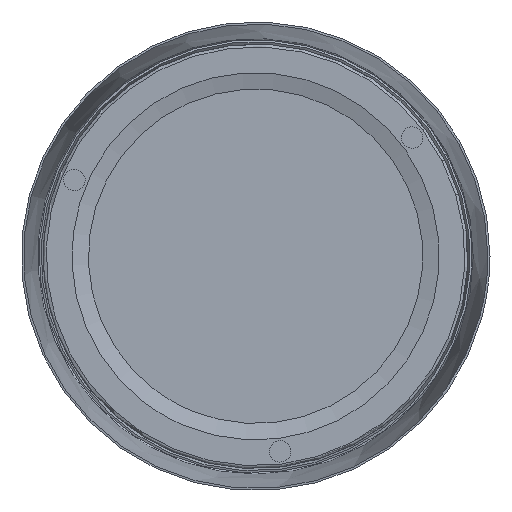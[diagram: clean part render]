
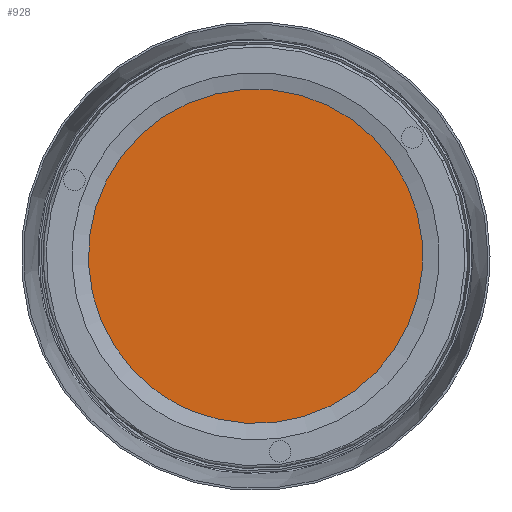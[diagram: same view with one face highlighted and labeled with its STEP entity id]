
A CAD part, front view. The second image highlights one B-rep face of the part: STEP entity #928.
In plain terms, the highlighted planar face has unit normal (0, -1, 0).
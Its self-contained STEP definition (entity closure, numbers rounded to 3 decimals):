
#193=FACE_OUTER_BOUND('',#254,.T.);
#254=EDGE_LOOP('',(#828,#829));
#364=CIRCLE('',#1207,117.);
#365=CIRCLE('',#1208,117.);
#461=VERTEX_POINT('',#1908);
#462=VERTEX_POINT('',#1909);
#587=EDGE_CURVE('',#461,#462,#364,.T.);
#588=EDGE_CURVE('',#462,#461,#365,.T.);
#828=ORIENTED_EDGE('',*,*,#587,.F.);
#829=ORIENTED_EDGE('',*,*,#588,.F.);
#878=PLANE('',#1206);
#928=ADVANCED_FACE('',(#193),#878,.F.);
#1206=AXIS2_PLACEMENT_3D('',#1907,#1538,#1539);
#1207=AXIS2_PLACEMENT_3D('',#1910,#1540,#1541);
#1208=AXIS2_PLACEMENT_3D('',#1911,#1542,#1543);
#1538=DIRECTION('center_axis',(0.,1.,0.));
#1539=DIRECTION('ref_axis',(0.,0.,1.));
#1540=DIRECTION('center_axis',(0.,1.,0.));
#1541=DIRECTION('ref_axis',(0.,0.,-1.));
#1542=DIRECTION('center_axis',(0.,1.,0.));
#1543=DIRECTION('ref_axis',(0.,0.,-1.));
#1907=CARTESIAN_POINT('Origin',(121.68,-2.,0.));
#1908=CARTESIAN_POINT('',(0.,-2.,-117.));
#1909=CARTESIAN_POINT('',(-30.518,-2.,-112.95));
#1910=CARTESIAN_POINT('Origin',(0.,-2.,0.));
#1911=CARTESIAN_POINT('Origin',(0.,-2.,0.));
